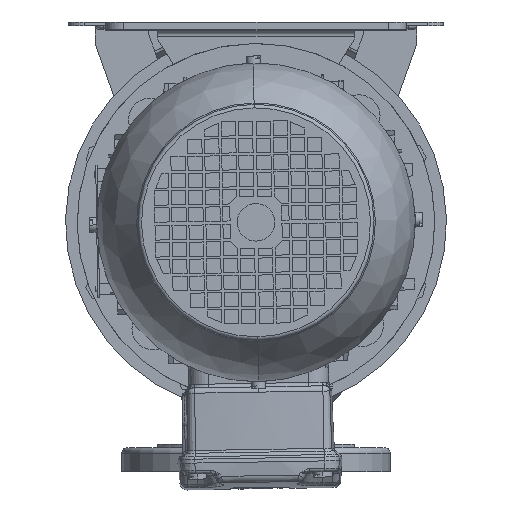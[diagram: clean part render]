
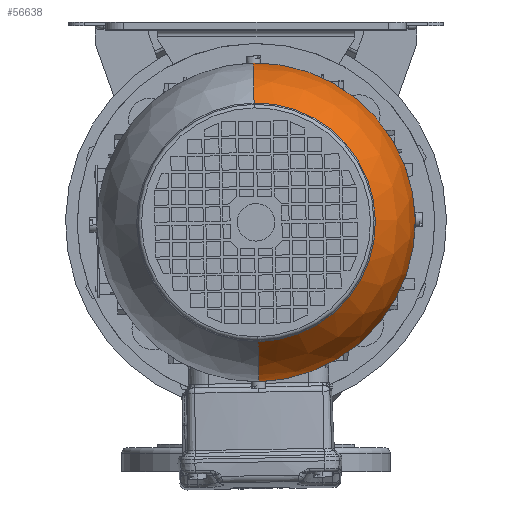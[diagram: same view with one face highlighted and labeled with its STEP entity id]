
A CAD part, front view. The second image highlights one B-rep face of the part: STEP entity #56638.
In plain terms, the highlighted spherical face has radius 89 mm.
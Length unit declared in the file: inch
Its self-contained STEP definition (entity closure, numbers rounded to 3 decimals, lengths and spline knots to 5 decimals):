
#22935 = ORIENTED_EDGE ( 'NONE', *, *, #52681, .T. ) ;
#22979 = CIRCLE ( 'NONE', #89196, 3.50394 ) ;
#23397 = DIRECTION ( 'NONE',  ( 0., 1., 0. ) ) ;
#29988 = CARTESIAN_POINT ( 'NONE',  ( 0., 0., -3.85827 ) ) ;
#32449 = CARTESIAN_POINT ( 'NONE',  ( 0., 0., -3.85827 ) ) ;
#36767 = CARTESIAN_POINT ( 'NONE',  ( 0., -3.50394, -3.85827 ) ) ;
#46801 = CARTESIAN_POINT ( 'NONE',  ( 0., 0., -3.85827 ) ) ;
#49498 = DIRECTION ( 'NONE',  ( 0., 0., -1. ) ) ;
#52590 = AXIS2_PLACEMENT_3D ( 'NONE', #46801, #99496, #23397 ) ;
#52681 = EDGE_CURVE ( 'NONE', #122964, #153966, #80985, .T. ) ;
#56638 = ADVANCED_FACE ( 'NONE', ( #152114 ), #141749, .T. ) ;
#64137 = DIRECTION ( 'NONE',  ( 0., 1., 0. ) ) ;
#67530 = VERTEX_POINT ( 'NONE', #67788 ) ;
#67788 = CARTESIAN_POINT ( 'NONE',  ( 0., -2.62795, -6.1759 ) ) ;
#72468 = ORIENTED_EDGE ( 'NONE', *, *, #95161, .T. ) ;
#75600 = CARTESIAN_POINT ( 'NONE',  ( 0., 3.50394, -3.85827 ) ) ;
#75871 = CARTESIAN_POINT ( 'NONE',  ( 0., 2.62795, -6.1759 ) ) ;
#80985 = CIRCLE ( 'NONE', #166491, 3.50394 ) ;
#82707 = DIRECTION ( 'NONE',  ( 1., 0., 0. ) ) ;
#86102 = CARTESIAN_POINT ( 'NONE',  ( 0., 0., -6.1759 ) ) ;
#89196 = AXIS2_PLACEMENT_3D ( 'NONE', #29988, #82707, #122438 ) ;
#95161 = EDGE_CURVE ( 'NONE', #153966, #67530, #22979, .T. ) ;
#99005 = DIRECTION ( 'NONE',  ( 0., 0., 1. ) ) ;
#99496 = DIRECTION ( 'NONE',  ( 0., 0., 1. ) ) ;
#100524 = ORIENTED_EDGE ( 'NONE', *, *, #158289, .T. ) ;
#100819 = DIRECTION ( 'NONE',  ( 0., 0., 1. ) ) ;
#101411 = AXIS2_PLACEMENT_3D ( 'NONE', #124896, #150776, #99005 ) ;
#104280 = ORIENTED_EDGE ( 'NONE', *, *, #155025, .F. ) ;
#118204 = EDGE_LOOP ( 'NONE', ( #22935, #72468, #100524, #104280 ) ) ;
#122438 = DIRECTION ( 'NONE',  ( 0., 1., 0. ) ) ;
#122964 = VERTEX_POINT ( 'NONE', #75600 ) ;
#124896 = CARTESIAN_POINT ( 'NONE',  ( 0., 0., -3.85827 ) ) ;
#140394 = CIRCLE ( 'NONE', #162356, 2.62795 ) ;
#141749 = SPHERICAL_SURFACE ( 'NONE', #52590, 3.50394 ) ;
#150776 = DIRECTION ( 'NONE',  ( -1., 0., 0. ) ) ;
#152114 = FACE_OUTER_BOUND ( 'NONE', #118204, .T. ) ;
#152695 = VERTEX_POINT ( 'NONE', #75871 ) ;
#153442 = DIRECTION ( 'NONE',  ( 0., -1., 0. ) ) ;
#153966 = VERTEX_POINT ( 'NONE', #36767 ) ;
#155025 = EDGE_CURVE ( 'NONE', #122964, #152695, #159259, .T. ) ;
#158289 = EDGE_CURVE ( 'NONE', #67530, #152695, #140394, .T. ) ;
#159259 = CIRCLE ( 'NONE', #101411, 3.50394 ) ;
#162356 = AXIS2_PLACEMENT_3D ( 'NONE', #86102, #100819, #153442 ) ;
#166491 = AXIS2_PLACEMENT_3D ( 'NONE', #32449, #49498, #64137 ) ;
